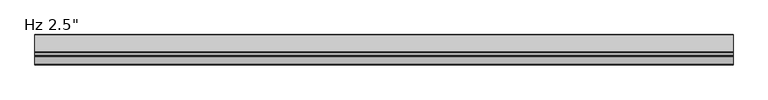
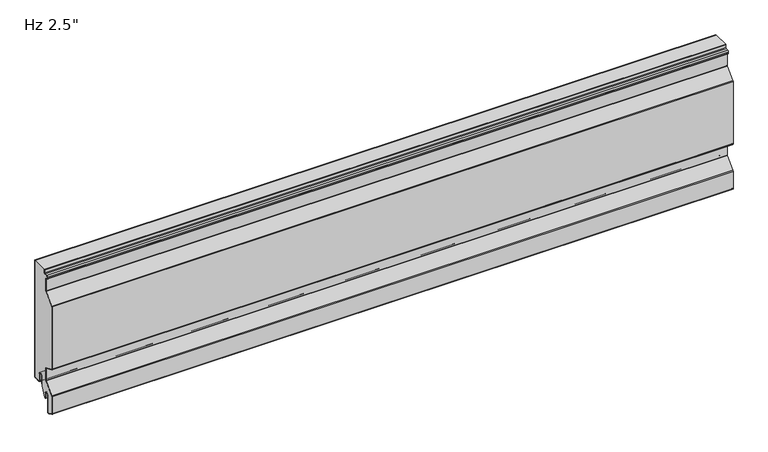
"""IFC4 building model written with IfcOpenShell, lengths in millimetres: plate geometry."""

import ifcopenshell
import ifcopenshell.guid

model = None  # the IFC model being written
_history = None  # IfcOwnerHistory: only IFC2X3 demands one
_inside = {}  # id of a spatial element -> (the spatial element, [elements in it])
_under = {}  # id of a project, library or spatial element -> (it, [spatial elements below it])
_declared = {}  # id of a project -> (the project, [libraries it declares])
_typed = {}  # id of a type object -> (the type object, [elements of that type])
_made_of = {}  # id of a material, layer set ... -> (it, [elements and type objects made of it])


def new_model(schema):
    """Start an empty IFC model of exactly this schema.

    Asked for "IFC4X3", IfcOpenShell would pick the latest addendum, in which some entities
    have other attributes; the version numbers below select the first issue.
    IFC2X3 requires an IfcOwnerHistory on every rooted entity: one is made here for all.
    """
    global model, _history
    if schema == "IFC4X3":
        model = ifcopenshell.file(schema_version=(4, 3, 0, 0))
    else:
        model = ifcopenshell.file(schema=schema)
    _inside.clear()
    _under.clear()
    _declared.clear()
    _typed.clear()
    _made_of.clear()
    _history = None
    if model.schema == "IFC2X3":
        org = make("IfcOrganization", Name="unknown")
        user = make(
            "IfcPersonAndOrganization",
            ThePerson=make("IfcPerson", FamilyName="unknown"),
            TheOrganization=org,
        )
        app = make(
            "IfcApplication",
            ApplicationDeveloper=org,
            Version="unknown",
            ApplicationFullName="unknown",
            ApplicationIdentifier="unknown",
        )
        _history = make(
            "IfcOwnerHistory",
            OwningUser=user,
            OwningApplication=app,
            ChangeAction="ADDED",
            CreationDate=0,
        )
    return model


def make(cls, **values):
    """One entity of the class cls with the attributes given. An attribute that is None is left unset."""
    return model.create_entity(
        cls, **{name: value for name, value in values.items() if value is not None}
    )


def rooted(cls, **values):
    """An entity with a GlobalId (a new one), such as an element, a storey or a relation."""
    return make(cls, GlobalId=ifcopenshell.guid.new(), OwnerHistory=_history, **values)


def si_unit(unit_type, name, prefix=None):
    """IfcSIUnit, for example si_unit("LENGTHUNIT", "METRE", prefix="MILLI")."""
    return make("IfcSIUnit", UnitType=unit_type, Prefix=prefix, Name=name)


def assignment(units):
    """IfcUnitAssignment: the units of a project."""
    return None if units is None else make("IfcUnitAssignment", Units=units)


def point(xyz):
    """IfcCartesianPoint."""
    return None if xyz is None else make("IfcCartesianPoint", Coordinates=xyz)


def direction(xyz):
    """IfcDirection."""
    return None if xyz is None else make("IfcDirection", DirectionRatios=xyz)


def frame(location, z_axis=None, x_axis=None):
    """IfcAxis2Placement3D, a coordinate frame: its origin and axes. An axis left out is left unset."""
    return make(
        "IfcAxis2Placement3D",
        Location=point(location),
        Axis=direction(z_axis),
        RefDirection=direction(x_axis),
    )


def frame_2d(location, x_axis=None):
    """IfcAxis2Placement2D, a coordinate frame in the plane: its origin and x axis."""
    return make(
        "IfcAxis2Placement2D", Location=point(location), RefDirection=direction(x_axis)
    )


def origin():
    """The frame at (0, 0, 0) with its axes left unset."""
    return frame((0.0, 0.0, 0.0))


def place(relative_to, where):
    """IfcLocalPlacement: puts the frame where relative to a parent placement (None: the world)."""
    return make(
        "IfcLocalPlacement", PlacementRelTo=relative_to, RelativePlacement=where
    )


def context(
    kind, dimensions, precision=None, world=None, true_north=None, identifier=None
):
    """IfcGeometricRepresentationContext, for example the 3D "Model" context."""
    return make(
        "IfcGeometricRepresentationContext",
        ContextIdentifier=identifier,
        ContextType=kind,
        CoordinateSpaceDimension=dimensions,
        Precision=precision,
        WorldCoordinateSystem=world,
        TrueNorth=true_north,
    )


def project(units=None, contexts=None):
    """IfcProject with its units and contexts."""
    return rooted(
        "IfcProject",
        Name="project",
        RepresentationContexts=contexts,
        UnitsInContext=assignment(units),
    )


def spatial(cls, under=None, at=None, **own):
    """A site, building, storey or space (cls), placed at a placement, below another one or the project."""
    s = rooted(cls, ObjectPlacement=at, **own)
    if under is not None:
        _under.setdefault(under.id(), (under, []))[1].append(s)
    return s


def polyline(points):
    """IfcPolyline through the points."""
    return make("IfcPolyline", Points=[point(p) for p in points])


def circle_curve(where, radius):
    """IfcCircle in the frame where."""
    return make("IfcCircle", Position=where, Radius=radius)


def trimmed(basis, trim1, trim2, sense, master):
    """IfcTrimmedCurve: the piece of a basis curve between two trims."""
    return make(
        "IfcTrimmedCurve",
        BasisCurve=basis,
        Trim1=trim1,
        Trim2=trim2,
        SenseAgreement=sense,
        MasterRepresentation=master,
    )


def segment(curve, same_sense, transition):
    """IfcCompositeCurveSegment."""
    return make(
        "IfcCompositeCurveSegment",
        Transition=transition,
        SameSense=same_sense,
        ParentCurve=curve,
    )


def composite_curve(segments, self_intersect=None):
    """IfcCompositeCurve: segments joined end to end."""
    return make("IfcCompositeCurve", Segments=segments, SelfIntersect=self_intersect)


def outline(outer, holes=None, kind="AREA"):
    """IfcArbitraryClosedProfileDef: a profile drawn as a closed curve; with holes, ...WithVoids."""
    if holes is None:
        return make("IfcArbitraryClosedProfileDef", ProfileType=kind, OuterCurve=outer)
    return make(
        "IfcArbitraryProfileDefWithVoids",
        ProfileType=kind,
        OuterCurve=outer,
        InnerCurves=holes,
    )


def extrude(swept, where, along, depth):
    """IfcExtrudedAreaSolid: the profile swept, set in the frame where, extruded along a direction by depth."""
    return make(
        "IfcExtrudedAreaSolid",
        SweptArea=swept,
        Position=where,
        ExtrudedDirection=direction(along),
        Depth=depth,
    )


def shape(context_of_items, identifier, shape_type, items):
    """IfcShapeRepresentation: the items that make up one representation, for example the "Body"."""
    return make(
        "IfcShapeRepresentation",
        ContextOfItems=context_of_items,
        RepresentationIdentifier=identifier,
        RepresentationType=shape_type,
        Items=items,
    )


def source(mapping_origin, context_of_items, identifier, shape_type, items):
    """IfcRepresentationMap: a shape defined once, which mapped items show again and again."""
    return make(
        "IfcRepresentationMap",
        MappingOrigin=mapping_origin,
        MappedRepresentation=shape(context_of_items, identifier, shape_type, items),
    )


def transform(
    local_origin,
    x_axis=None,
    y_axis=None,
    z_axis=None,
    scale=None,
    scale2=None,
    scale3=None,
    uniform=True,
):
    """IfcCartesianTransformationOperator3D, or its non-uniform kind. x_axis, y_axis, z_axis: its Axis1, 2, 3."""
    if uniform:
        return make(
            "IfcCartesianTransformationOperator3D",
            Axis1=direction(x_axis),
            Axis2=direction(y_axis),
            LocalOrigin=point(local_origin),
            Scale=scale,
            Axis3=direction(z_axis),
        )
    return make(
        "IfcCartesianTransformationOperator3DnonUniform",
        Axis1=direction(x_axis),
        Axis2=direction(y_axis),
        LocalOrigin=point(local_origin),
        Scale=scale,
        Axis3=direction(z_axis),
        Scale2=scale2,
        Scale3=scale3,
    )


def mapped(mapping_source, mapping_target):
    """IfcMappedItem: shows the shape of a source again, moved by a transform."""
    return make(
        "IfcMappedItem", MappingSource=mapping_source, MappingTarget=mapping_target
    )


def made_of(thing, what):
    """Note that an element or type object is made of a material, layer set ...; save() writes the relation."""
    if what is not None:
        _made_of.setdefault(what.id(), (what, []))[1].append(thing)
    return thing


def element(
    cls,
    number,
    at=None,
    inside=None,
    cuts=None,
    type_object=None,
    material=None,
    context=None,
    identifier="Body",
    shape_type=None,
    held_by="IfcProductDefinitionShape",
    body=None,
    shapes=None,
    **own,
):
    """One element of the class cls, such as IfcWall. Its Tag is "e" and its number.

    at: its placement. inside: the storey or other place that contains it. cuts: it is an
    opening in that element (IfcRelVoidsElement). A single representation is given by context,
    identifier, shape_type and body (its items); several are given by shapes. held_by: the class
    of the entity that holds the representations. save() writes the other relations.
    """
    e = rooted(cls, Tag="e%d" % number, ObjectPlacement=at, **own)
    if body is not None:
        shapes = [shape(context, identifier, shape_type, body)]
    if shapes is not None:
        e.Representation = make(held_by, Representations=shapes)
    if inside is not None:
        _inside.setdefault(inside.id(), (inside, []))[1].append(e)
    if cuts is not None:
        rooted(
            "IfcRelVoidsElement", RelatingBuildingElement=cuts, RelatedOpeningElement=e
        )
    if type_object is not None:
        _typed.setdefault(type_object.id(), (type_object, []))[1].append(e)
    return made_of(e, material)


def aggregate(whole, parts):
    """IfcRelAggregates: a whole, such as a stair, and the parts it consists of."""
    return rooted("IfcRelAggregates", RelatingObject=whole, RelatedObjects=parts)


def save(model, path):
    """Write the relations noted so far, then the file.

    IfcRelAggregates (storeys below a building ...), IfcRelContainedInSpatialStructure (elements
    in a storey), IfcRelDefinesByType, IfcRelAssociatesMaterial and IfcRelDeclares: one each for
    every whole, place, type object, material and project.
    """
    for whole, parts in _under.values():
        aggregate(whole, parts)
    for where, things in _inside.values():
        rooted(
            "IfcRelContainedInSpatialStructure",
            RelatedElements=things,
            RelatingStructure=where,
        )
    for kind, things in _typed.values():
        rooted("IfcRelDefinesByType", RelatedObjects=things, RelatingType=kind)
    for what, things in _made_of.values():
        rooted("IfcRelAssociatesMaterial", RelatedObjects=things, RelatingMaterial=what)
    for by, libraries in _declared.values():
        rooted("IfcRelDeclares", RelatingContext=by, RelatedDefinitions=libraries)
    model.write(path)


def plate_7d3e74aa(model_context):
    return source(origin(), model_context, "Body", "SweptSolid", [
        extrude(outline(composite_curve([segment(polyline([(-26.4011912, 19.05), (-26.4011912, -3.1976612), (-36.533822, -23.01875), (-38.6886912, -23.01875), (-38.6886912, -11.90625)]), True, "CONTINUOUS"), segment(trimmed(circle_curve(frame_2d((-43.6574412, -11.90625)), 4.96875), [point((-38.6886912, -11.90625))], [point((-48.6261912, -11.90625))], True, "CARTESIAN"), True, "CONTINUOUS"), segment(polyline([(-48.6261912, -11.90625), (-48.6261912, -48.8194049)]), True, "CONTINUOUS"), segment(trimmed(circle_curve(frame_2d((-50.0074412, -48.8194049)), 1.38125), [point((-48.6261912, -48.8194049))], [point((-50.5666208, -50.0824052))], False, "CARTESIAN"), True, "CONTINUOUS"), segment(polyline([(-50.5666208, -50.0824052), (-61.6779296, -45.1629946)]), True, "CONTINUOUS"), segment(trimmed(circle_curve(frame_2d((-61.11875, -43.8999943)), 1.38125), [point((-61.6779296, -45.1629946))], [point((-62.5, -43.8999943))], False, "CARTESIAN"), True, "CONTINUOUS"), segment(polyline([(-62.5, -43.8999943), (-62.5, -5.0536946)]), True, "CONTINUOUS"), segment(trimmed(circle_curve(frame_2d((-60.4012, -5.0536946)), 2.0988), [point((-62.5, -5.0536946))], [point((-61.9092077, -3.5939431))], False, "CARTESIAN"), True, "CONTINUOUS"), segment(polyline([(-61.9092077, -3.5939431), (-41.7145567, 17.2682996)]), True, "CONTINUOUS"), segment(trimmed(circle_curve(frame_2d((-43.5737, 19.0679503)), 2.5875), [point((-41.7145567, 17.2682996))], [point((-40.9862, 19.0679503))], True, "CARTESIAN"), True, "CONTINUOUS"), segment(polyline([(-40.9862, 19.0679503), (-40.9862, 45.5917981)]), True, "CONTINUOUS"), segment(trimmed(circle_curve(frame_2d((-43.5737, 45.5917981)), 2.5875), [point((-40.9862, 45.5917981))], [point((-42.5261871, 47.9577806))], True, "CARTESIAN"), True, "CONTINUOUS"), segment(polyline([(-42.5261871, 47.9577806), (-61.6779296, 56.4370054)]), True, "CONTINUOUS"), segment(trimmed(circle_curve(frame_2d((-61.11875, 57.7000057)), 1.38125), [point((-61.6779296, 56.4370054))], [point((-62.5, 57.7000057))], False, "CARTESIAN"), True, "CONTINUOUS"), segment(polyline([(-62.5, 57.7000057), (-62.5, 198.4367131)]), True, "CONTINUOUS"), segment(trimmed(circle_curve(frame_2d((-61.11875, 198.4367131)), 1.38125), [point((-62.5, 198.4367131))], [point((-62.1111912, 199.3973962))], False, "CARTESIAN"), True, "CONTINUOUS"), segment(polyline([(-62.1111912, 199.3973962), (-41.7145567, 220.4682996)]), True, "CONTINUOUS"), segment(trimmed(circle_curve(frame_2d((-43.5737, 222.2679503)), 2.5875), [point((-41.7145567, 220.4682996))], [point((-40.9862, 222.2679503))], True, "CARTESIAN"), True, "CONTINUOUS"), segment(polyline([(-40.9862, 222.2679503), (-40.9862, 248.7917981)]), True, "CONTINUOUS"), segment(trimmed(circle_curve(frame_2d((-43.5737, 248.7917981)), 2.5875), [point((-40.9862, 248.7917981))], [point((-42.5261871, 251.1577806))], True, "CARTESIAN"), True, "CONTINUOUS"), segment(polyline([(-42.5261871, 251.1577806), (-44.2166208, 251.9062016)]), True, "CONTINUOUS"), segment(trimmed(circle_curve(frame_2d((-43.6574412, 253.1692019)), 1.38125), [point((-44.2166208, 251.9062016))], [point((-45.0386912, 253.1692019))], False, "CARTESIAN"), True, "CONTINUOUS"), segment(polyline([(-45.0386912, 253.1692019), (-45.0386912, 255.4967085)]), True, "CONTINUOUS"), segment(trimmed(circle_curve(frame_2d((-43.6574412, 255.4967085)), 1.38125), [point((-45.0386912, 255.4967085))], [point((-43.7297302, 256.8760655))], False, "CARTESIAN"), True, "CONTINUOUS"), segment(polyline([(-43.7297302, 256.8760655), (-37.9657719, 257.1781418)]), True, "CONTINUOUS"), segment(trimmed(circle_curve(frame_2d((-38.1011912, 259.7620957)), 2.5875), [point((-37.9657719, 257.1781418))], [point((-35.5136912, 259.7620957))], True, "CARTESIAN"), True, "CONTINUOUS"), segment(polyline([(-35.5136912, 259.7620957), (-35.5136912, 266.4), (-1.0011912, 266.4), (-1.0011912, 3.175)]), True, "CONTINUOUS"), segment(trimmed(circle_curve(frame_2d((-2.3824412, 3.175)), 1.38125), [point((-1.0011912, 3.175))], [point((-2.3824412, 1.79375))], False, "CARTESIAN"), True, "CONTINUOUS"), segment(polyline([(-2.3824412, 1.79375), (-15.0824412, 1.79375)]), True, "CONTINUOUS"), segment(trimmed(circle_curve(frame_2d((-15.0824412, 3.175)), 1.38125), [point((-15.0824412, 1.79375))], [point((-16.4636912, 3.175))], False, "CARTESIAN"), True, "CONTINUOUS"), segment(polyline([(-16.4636912, 3.175), (-16.4636912, 19.05)]), True, "CONTINUOUS"), segment(trimmed(circle_curve(frame_2d((-21.4324412, 19.05)), 4.96875), [point((-16.4636912, 19.05))], [point((-26.4011912, 19.05))], True, "CARTESIAN"), True, "CONTINUOUS")], self_intersect=False)), frame((-730.0, 0.0, 0.0), z_axis=(1.0, 0.0, 0.0), x_axis=(0.0, 1.0, 0.0)), (0.0, 0.0, 1.0), 1460.0),
        extrude(outline(composite_curve([segment(polyline([(-25.4, 0.79375), (-26.4, 0.79375), (-26.4, 19.05)]), True, "CONTINUOUS"), segment(trimmed(circle_curve(frame_2d((-21.43125, 19.05)), 4.96875), [point((-26.4, 19.05))], [point((-16.4625, 19.05))], False, "CARTESIAN"), True, "CONTINUOUS"), segment(polyline([(-16.4625, 19.05), (-16.4625, 3.175)]), True, "CONTINUOUS"), segment(trimmed(circle_curve(frame_2d((-15.08125, 3.175)), 1.38125), [point((-16.4625, 3.175))], [point((-15.08125, 1.79375))], True, "CARTESIAN"), True, "CONTINUOUS"), segment(polyline([(-15.08125, 1.79375), (-2.38125, 1.79375)]), True, "CONTINUOUS"), segment(trimmed(circle_curve(frame_2d((-2.38125, 3.175)), 1.38125), [point((-2.38125, 1.79375))], [point((-1.0, 3.175))], True, "CARTESIAN"), True, "CONTINUOUS"), segment(polyline([(-1.0, 3.175), (-1.0, 266.4), (0.0, 266.4), (0.0, 3.175)]), True, "CONTINUOUS"), segment(trimmed(circle_curve(frame_2d((-2.38125, 3.175)), 2.38125), [point((0.0, 3.175))], [point((-2.38125, 0.79375))], False, "CARTESIAN"), True, "CONTINUOUS"), segment(polyline([(-2.38125, 0.79375), (-15.08125, 0.79375)]), True, "CONTINUOUS"), segment(trimmed(circle_curve(frame_2d((-15.08125, 3.175)), 2.38125), [point((-15.08125, 0.79375))], [point((-17.4625, 3.175))], False, "CARTESIAN"), True, "CONTINUOUS"), segment(polyline([(-17.4625, 3.175), (-17.4625, 19.05)]), True, "CONTINUOUS"), segment(trimmed(circle_curve(frame_2d((-21.43125, 19.05)), 3.96875), [point((-17.4625, 19.05))], [point((-25.4, 19.05))], True, "CARTESIAN"), True, "CONTINUOUS"), segment(polyline([(-25.4, 19.05), (-25.4, 0.79375)]), True, "CONTINUOUS")], self_intersect=False)), frame((-730.0, 0.0, 0.0), z_axis=(1.0, 0.0, 0.0), x_axis=(0.0, 1.0, 0.0)), (0.0, 0.0, 1.0), 1460.0),
        extrude(outline(composite_curve([segment(polyline([(-47.6261912, -11.90625), (-47.6261912, -48.8194049)]), True, "CONTINUOUS"), segment(trimmed(circle_curve(frame_2d((-50.0074412, -48.8194049)), 2.38125), [point((-47.6261912, -48.8194049))], [point((-50.9714567, -50.9967946))], False, "CARTESIAN"), True, "CONTINUOUS"), segment(polyline([(-50.9714567, -50.9967946), (-62.0827655, -46.0773839)]), True, "CONTINUOUS"), segment(trimmed(circle_curve(frame_2d((-61.11875, -43.8999943)), 2.38125), [point((-62.0827655, -46.0773839))], [point((-63.5, -43.8999943))], False, "CARTESIAN"), True, "CONTINUOUS"), segment(polyline([(-63.5, -43.8999943), (-63.5, -5.0536946)]), True, "CONTINUOUS"), segment(trimmed(circle_curve(frame_2d((-60.4012, -5.0536946)), 3.0988), [point((-63.5, -5.0536946))], [point((-62.6277172, -2.8984259))], False, "CARTESIAN"), True, "CONTINUOUS"), segment(polyline([(-62.6277172, -2.8984259), (-42.4330662, 17.9638168)]), True, "CONTINUOUS"), segment(trimmed(circle_curve(frame_2d((-43.5737, 19.0679503)), 1.5875), [point((-42.4330662, 17.9638168))], [point((-41.9862, 19.0679503))], True, "CARTESIAN"), True, "CONTINUOUS"), segment(polyline([(-41.9862, 19.0679503), (-41.9862, 45.5917981)]), True, "CONTINUOUS"), segment(trimmed(circle_curve(frame_2d((-43.5737, 45.5917981)), 1.5875), [point((-41.9862, 45.5917981))], [point((-42.931023, 47.0433912))], True, "CARTESIAN"), True, "CONTINUOUS"), segment(polyline([(-42.931023, 47.0433912), (-62.0827655, 55.5226161)]), True, "CONTINUOUS"), segment(trimmed(circle_curve(frame_2d((-61.11875, 57.7000057)), 2.38125), [point((-62.0827655, 55.5226161))], [point((-63.5, 57.7000057))], False, "CARTESIAN"), True, "CONTINUOUS"), segment(polyline([(-63.5, 57.7000057), (-63.5, 198.4367131)]), True, "CONTINUOUS"), segment(trimmed(circle_curve(frame_2d((-61.11875, 198.4367131)), 2.38125), [point((-63.5, 198.4367131))], [point((-62.8297007, 200.0929134))], False, "CARTESIAN"), True, "CONTINUOUS"), segment(polyline([(-62.8297007, 200.0929134), (-42.4330662, 221.1638168)]), True, "CONTINUOUS"), segment(trimmed(circle_curve(frame_2d((-43.5737, 222.2679503)), 1.5875), [point((-42.4330662, 221.1638168))], [point((-41.9862, 222.2679503))], True, "CARTESIAN"), True, "CONTINUOUS"), segment(polyline([(-41.9862, 222.2679503), (-41.9862, 248.7917981)]), True, "CONTINUOUS"), segment(trimmed(circle_curve(frame_2d((-43.5737, 248.7917981)), 1.5875), [point((-41.9862, 248.7917981))], [point((-42.931023, 250.2433912))], True, "CARTESIAN"), True, "CONTINUOUS"), segment(polyline([(-42.931023, 250.2433912), (-44.6214567, 250.9918123)]), True, "CONTINUOUS"), segment(trimmed(circle_curve(frame_2d((-43.6574412, 253.1692019)), 2.38125), [point((-44.6214567, 250.9918123))], [point((-46.0386912, 253.1692019))], False, "CARTESIAN"), True, "CONTINUOUS"), segment(polyline([(-46.0386912, 253.1692019), (-46.0386912, 255.4967085)]), True, "CONTINUOUS"), segment(trimmed(circle_curve(frame_2d((-43.6574412, 255.4967085)), 2.38125), [point((-46.0386912, 255.4967085))], [point((-43.7820662, 257.8746951))], False, "CARTESIAN"), True, "CONTINUOUS"), segment(polyline([(-43.7820662, 257.8746951), (-38.0181078, 258.1767713)]), True, "CONTINUOUS"), segment(trimmed(circle_curve(frame_2d((-38.1011912, 259.7620957)), 1.5875), [point((-38.0181078, 258.1767713))], [point((-36.5136912, 259.7620957))], True, "CARTESIAN"), True, "CONTINUOUS"), segment(polyline([(-36.5136912, 259.7620957), (-36.5136912, 266.4), (-35.5136912, 266.4), (-35.5136912, 259.7620957)]), True, "CONTINUOUS"), segment(trimmed(circle_curve(frame_2d((-38.1011912, 259.7620957)), 2.5875), [point((-35.5136912, 259.7620957))], [point((-37.9657719, 257.1781418))], False, "CARTESIAN"), True, "CONTINUOUS"), segment(polyline([(-37.9657719, 257.1781418), (-43.7297302, 256.8760655)]), True, "CONTINUOUS"), segment(trimmed(circle_curve(frame_2d((-43.6574412, 255.4967085)), 1.38125), [point((-43.7297302, 256.8760655))], [point((-45.0386912, 255.4967085))], True, "CARTESIAN"), True, "CONTINUOUS"), segment(polyline([(-45.0386912, 255.4967085), (-45.0386912, 253.1692019)]), True, "CONTINUOUS"), segment(trimmed(circle_curve(frame_2d((-43.6574412, 253.1692019)), 1.38125), [point((-45.0386912, 253.1692019))], [point((-44.2166208, 251.9062016))], True, "CARTESIAN"), True, "CONTINUOUS"), segment(polyline([(-44.2166208, 251.9062016), (-42.5261871, 251.1577806)]), True, "CONTINUOUS"), segment(trimmed(circle_curve(frame_2d((-43.5737, 248.7917981)), 2.5875), [point((-42.5261871, 251.1577806))], [point((-40.9862, 248.7917981))], False, "CARTESIAN"), True, "CONTINUOUS"), segment(polyline([(-40.9862, 248.7917981), (-40.9862, 222.2679503)]), True, "CONTINUOUS"), segment(trimmed(circle_curve(frame_2d((-43.5737, 222.2679503)), 2.5875), [point((-40.9862, 222.2679503))], [point((-41.7145567, 220.4682996))], False, "CARTESIAN"), True, "CONTINUOUS"), segment(polyline([(-41.7145567, 220.4682996), (-62.1111912, 199.3973962)]), True, "CONTINUOUS"), segment(trimmed(circle_curve(frame_2d((-61.11875, 198.4367131)), 1.38125), [point((-62.1111912, 199.3973962))], [point((-62.5, 198.4367131))], True, "CARTESIAN"), True, "CONTINUOUS"), segment(polyline([(-62.5, 198.4367131), (-62.5, 57.7000057)]), True, "CONTINUOUS"), segment(trimmed(circle_curve(frame_2d((-61.11875, 57.7000057)), 1.38125), [point((-62.5, 57.7000057))], [point((-61.6779296, 56.4370054))], True, "CARTESIAN"), True, "CONTINUOUS"), segment(polyline([(-61.6779296, 56.4370054), (-42.5261871, 47.9577806)]), True, "CONTINUOUS"), segment(trimmed(circle_curve(frame_2d((-43.5737, 45.5917981)), 2.5875), [point((-42.5261871, 47.9577806))], [point((-40.9862, 45.5917981))], False, "CARTESIAN"), True, "CONTINUOUS"), segment(polyline([(-40.9862, 45.5917981), (-40.9862, 19.0679503)]), True, "CONTINUOUS"), segment(trimmed(circle_curve(frame_2d((-43.5737, 19.0679503)), 2.5875), [point((-40.9862, 19.0679503))], [point((-41.7145567, 17.2682996))], False, "CARTESIAN"), True, "CONTINUOUS"), segment(polyline([(-41.7145567, 17.2682996), (-61.9092077, -3.5939431)]), True, "CONTINUOUS"), segment(trimmed(circle_curve(frame_2d((-60.4012, -5.0536946)), 2.0988), [point((-61.9092077, -3.5939431))], [point((-62.5, -5.0536946))], True, "CARTESIAN"), True, "CONTINUOUS"), segment(polyline([(-62.5, -5.0536946), (-62.5, -43.8999943)]), True, "CONTINUOUS"), segment(trimmed(circle_curve(frame_2d((-61.11875, -43.8999943)), 1.38125), [point((-62.5, -43.8999943))], [point((-61.6779296, -45.1629946))], True, "CARTESIAN"), True, "CONTINUOUS"), segment(polyline([(-61.6779296, -45.1629946), (-50.5666208, -50.0824052)]), True, "CONTINUOUS"), segment(trimmed(circle_curve(frame_2d((-50.0074412, -48.8194049)), 1.38125), [point((-50.5666208, -50.0824052))], [point((-48.6261912, -48.8194049))], True, "CARTESIAN"), True, "CONTINUOUS"), segment(polyline([(-48.6261912, -48.8194049), (-48.6261912, -11.90625)]), True, "CONTINUOUS"), segment(trimmed(circle_curve(frame_2d((-43.6574412, -11.90625)), 4.96875), [point((-48.6261912, -11.90625))], [point((-38.6886912, -11.90625))], False, "CARTESIAN"), True, "CONTINUOUS"), segment(polyline([(-38.6886912, -11.90625), (-38.6886912, -23.01875), (-39.6886912, -23.01875), (-39.6886912, -11.90625)]), True, "CONTINUOUS"), segment(trimmed(circle_curve(frame_2d((-43.6574412, -11.90625)), 3.96875), [point((-39.6886912, -11.90625))], [point((-47.6261912, -11.90625))], True, "CARTESIAN"), True, "CONTINUOUS")], self_intersect=False)), frame((-730.0, 0.0, 0.0), z_axis=(1.0, 0.0, 0.0), x_axis=(0.0, 1.0, 0.0)), (0.0, 0.0, 1.0), 1460.0),
    ])


if __name__ == "__main__":
    model = new_model("IFC4")
    model_context = context("Model", 3, world=origin())
    ifc_project = project(units=[si_unit("LENGTHUNIT", "METRE", prefix="MILLI")], contexts=[model_context])
    site = spatial("IfcSite", under=ifc_project)
    building = spatial("IfcBuilding", under=site)
    placement = place(None, origin())
    plate_shape = plate_7d3e74aa(model_context)
    element("IfcPlate", 1, ObjectType="KIP-12-DWR-R19-CP-Hz-A : Hz 2.5\"", at=placement, inside=building, context=model_context, shape_type="MappedRepresentation", body=[
        mapped(plate_shape, transform((0.0, 0.0, 0.0), x_axis=(1.0, 0.0, 0.0), y_axis=(0.0, 1.0, 0.0), z_axis=(0.0, 0.0, 1.0))),
    ])
    save(model, "model.ifc")
